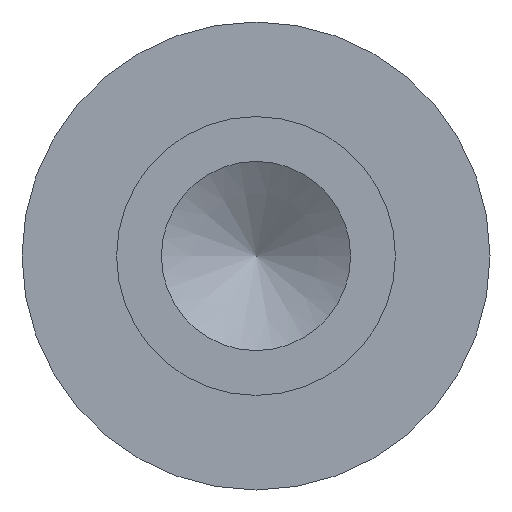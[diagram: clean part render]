
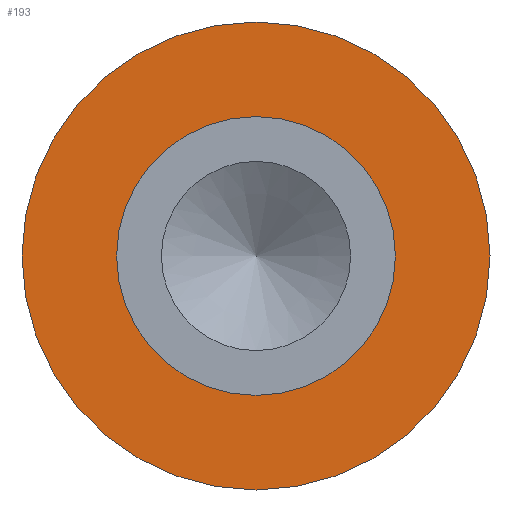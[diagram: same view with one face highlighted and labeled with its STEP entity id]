
A CAD part, left-side view. The second image highlights one B-rep face of the part: STEP entity #193.
In plain terms, the highlighted planar face has unit normal (-1, 0, 0).
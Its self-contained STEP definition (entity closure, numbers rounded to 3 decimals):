
#15=FACE_BOUND($,#67,.T.);
#36=CIRCLE($,#217,1.422);
#38=CIRCLE($,#220,2.388);
#51=FACE_OUTER_BOUND($,#66,.T.);
#66=EDGE_LOOP($,(#155));
#67=EDGE_LOOP($,(#156));
#106=VERTEX_POINT($,#330);
#108=VERTEX_POINT($,#335);
#127=EDGE_CURVE($,#106,#106,#36,.T.);
#129=EDGE_CURVE($,#108,#108,#38,.T.);
#155=ORIENTED_EDGE($,*,*,#129,.F.);
#156=ORIENTED_EDGE($,*,*,#127,.T.);
#181=PLANE($,#219);
#193=ADVANCED_FACE($,(#51,#15),#181,.T.);
#217=AXIS2_PLACEMENT_3D($,#331,#269,#270);
#219=AXIS2_PLACEMENT_3D($,#334,#273,#274);
#220=AXIS2_PLACEMENT_3D($,#336,#275,#276);
#269=DIRECTION('center_axis',(1.,0.,0.));
#270=DIRECTION('ref_axis',(0.,1.,0.));
#273=DIRECTION('center_axis',(-1.,0.,0.));
#274=DIRECTION('ref_axis',(0.,0.,1.));
#275=DIRECTION('center_axis',(1.,0.,0.));
#276=DIRECTION('ref_axis',(0.,1.,0.));
#330=CARTESIAN_POINT('',(3.581,1.422,0.));
#331=CARTESIAN_POINT('Origin',(3.581,0.,0.));
#334=CARTESIAN_POINT('Origin',(3.581,1.905,0.));
#335=CARTESIAN_POINT('',(3.581,2.388,0.));
#336=CARTESIAN_POINT('Origin',(3.581,0.,0.));
